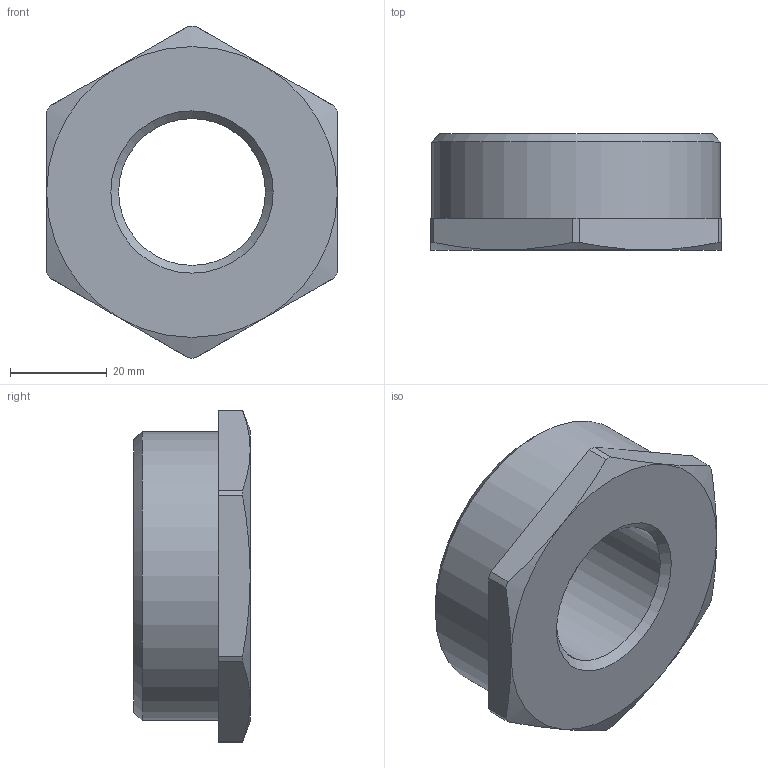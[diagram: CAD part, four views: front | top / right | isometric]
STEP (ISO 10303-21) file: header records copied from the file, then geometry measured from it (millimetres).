
FILE_DESCRIPTION(('STEP AP203'), '1');
FILE_NAME('ÂÐ.753128.041 - VTr.581.N.0906 Ôèò. ðåçüá', '2024-07-05T08:30:53', ('Boss'), (''), 'C3D Converter', 'C3D Toolkit', '');
FILE_SCHEMA(('CONFIG_CONTROL_DESIGN'));
Length unit declared in the file: millimetre
Products named in the file (1): ВР.753128.041
Bounding box: 60 x 24 x 68.5 mm (x, y, z)
Volume: 47995.2 mm3; surface area: 12631.7 mm2
Topology: 1 solids, 1 shells, 28 faces, 62 edges, 39 vertices
Faces by surface type: plane 11, cylinder 10, cone 7
Full cylindrical faces by diameter (mm): 30.292 x1, 40 x1, 49 x1, 59.614 x1
Entity records: 996 total; most frequent: CARTESIAN_POINT 362, DIRECTION 130, ORIENTED_EDGE 110, AXIS2_PLACEMENT_3D 56, EDGE_CURVE 55, EDGE_LOOP 40, VERTEX_POINT 39, ADVANCED_FACE 28
